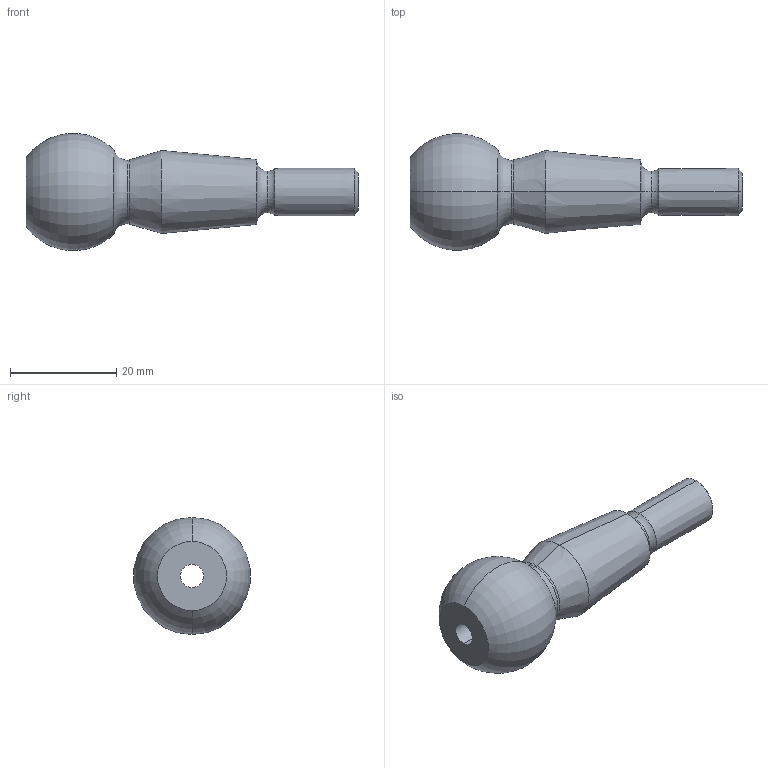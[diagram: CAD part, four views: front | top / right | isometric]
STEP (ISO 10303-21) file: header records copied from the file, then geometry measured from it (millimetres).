
FILE_DESCRIPTION (( 'STEP AP203' ), '1' );
FILE_NAME ('pardakht.STEP', '2024-10-24T12:15:05', ( '' ), ( '' ), 'SwSTEP 2.0', 'SolidWorks 2018', '' );
FILE_SCHEMA (( 'CONFIG_CONTROL_DESIGN' ));
Length unit declared in the file: millimetre
Products named in the file (1): pardakht
Bounding box: 62.5 x 21.85 x 22.02 mm (x, y, z)
Volume: 9384.9 mm3; surface area: 3961.8 mm2
Topology: 1 solids, 1 shells, 22 faces, 44 edges, 24 vertices
Faces by surface type: torus 10, cone 8, cylinder 2, plane 2
Entity records: 655 total; most frequent: DIRECTION 124, CARTESIAN_POINT 91, ORIENTED_EDGE 88, AXIS2_PLACEMENT_3D 57, EDGE_CURVE 44, CIRCLE 34, VERTEX_POINT 24, EDGE_LOOP 24
